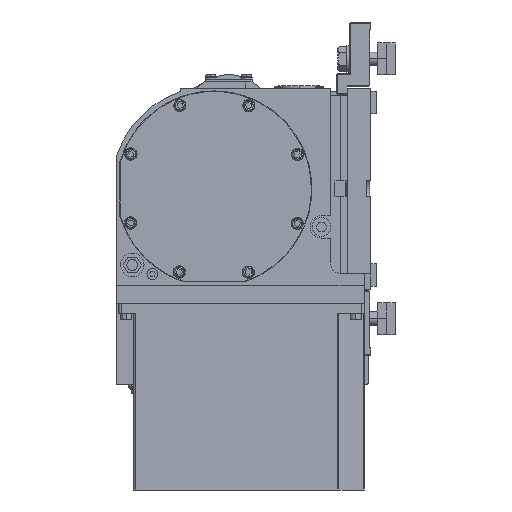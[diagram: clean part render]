
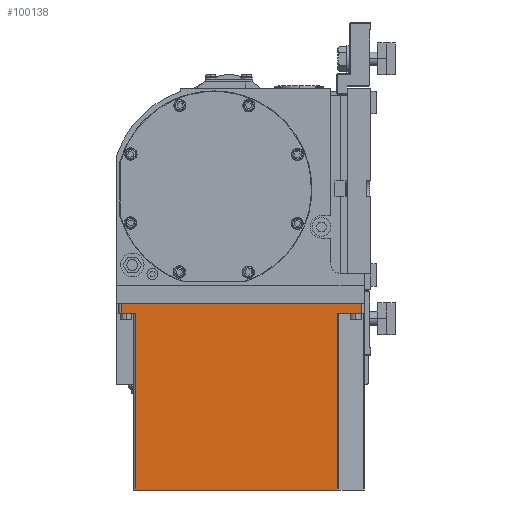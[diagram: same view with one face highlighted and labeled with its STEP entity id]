
A CAD part, left-side view. The second image highlights one B-rep face of the part: STEP entity #100138.
In plain terms, the highlighted planar face has unit normal (-1, 0, 0).
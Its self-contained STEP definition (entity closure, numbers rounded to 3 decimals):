
#446 = LINE ( 'NONE', #3447, #67395 ) ;
#2173 = VECTOR ( 'NONE', #89091, 1000. ) ;
#3447 = CARTESIAN_POINT ( 'NONE',  ( -122., 204., -167. ) ) ;
#9449 = CARTESIAN_POINT ( 'NONE',  ( -122., 2., -9. ) ) ;
#9562 = EDGE_CURVE ( 'NONE', #107541, #40245, #69084, .T. ) ;
#12858 = ORIENTED_EDGE ( 'NONE', *, *, #60396, .T. ) ;
#15121 = CARTESIAN_POINT ( 'NONE',  ( -122., 0., -9. ) ) ;
#19161 = CARTESIAN_POINT ( 'NONE',  ( -122., 204., -167. ) ) ;
#19182 = VERTEX_POINT ( 'NONE', #21708 ) ;
#21708 = CARTESIAN_POINT ( 'NONE',  ( -122., 2., -9. ) ) ;
#21808 = CARTESIAN_POINT ( 'NONE',  ( -122., 217., -9. ) ) ;
#22574 = EDGE_CURVE ( 'NONE', #98008, #19182, #71442, .T. ) ;
#22694 = VECTOR ( 'NONE', #44615, 1000. ) ;
#28133 = CARTESIAN_POINT ( 'NONE',  ( -122., 206., -167. ) ) ;
#30370 = ORIENTED_EDGE ( 'NONE', *, *, #38711, .T. ) ;
#30471 = CARTESIAN_POINT ( 'NONE',  ( -122., 0., -9. ) ) ;
#30924 = LINE ( 'NONE', #102678, #77389 ) ;
#32523 = CARTESIAN_POINT ( 'NONE',  ( -122., 0., -9. ) ) ;
#34671 = FACE_OUTER_BOUND ( 'NONE', #39842, .T. ) ;
#38711 = EDGE_CURVE ( 'NONE', #75381, #73160, #71972, .T. ) ;
#39842 = EDGE_LOOP ( 'NONE', ( #100612, #106405, #46216, #12858, #55872, #30370, #99481, #41302 ) ) ;
#40245 = VERTEX_POINT ( 'NONE', #19161 ) ;
#41302 = ORIENTED_EDGE ( 'NONE', *, *, #105590, .T. ) ;
#43007 = CARTESIAN_POINT ( 'NONE',  ( -122., 217., 0. ) ) ;
#44615 = DIRECTION ( 'NONE',  ( 0., 0., 1. ) ) ;
#44883 = CARTESIAN_POINT ( 'NONE',  ( -122., 23.828, -9. ) ) ;
#46216 = ORIENTED_EDGE ( 'NONE', *, *, #22574, .T. ) ;
#48049 = AXIS2_PLACEMENT_3D ( 'NONE', #15121, #102399, #50236 ) ;
#48247 = VECTOR ( 'NONE', #56839, 1000. ) ;
#50236 = DIRECTION ( 'NONE',  ( 0., 0., 1. ) ) ;
#53167 = EDGE_CURVE ( 'NONE', #73160, #85984, #58971, .T. ) ;
#55872 = ORIENTED_EDGE ( 'NONE', *, *, #108235, .F. ) ;
#56839 = DIRECTION ( 'NONE',  ( 0., -1., 0. ) ) ;
#58971 = LINE ( 'NONE', #32523, #79451 ) ;
#60396 = EDGE_CURVE ( 'NONE', #19182, #66523, #89533, .T. ) ;
#61021 = VECTOR ( 'NONE', #106797, 1000. ) ;
#63393 = EDGE_CURVE ( 'NONE', #107541, #98008, #86894, .T. ) ;
#64118 = DIRECTION ( 'NONE',  ( 0., 0., -1. ) ) ;
#66523 = VERTEX_POINT ( 'NONE', #79819 ) ;
#66698 = CARTESIAN_POINT ( 'NONE',  ( -122., 23.828, -167. ) ) ;
#67395 = VECTOR ( 'NONE', #64118, 1000. ) ;
#69084 = LINE ( 'NONE', #28133, #2173 ) ;
#69241 = VECTOR ( 'NONE', #100340, 1000. ) ;
#71442 = LINE ( 'NONE', #30471, #48247 ) ;
#71972 = LINE ( 'NONE', #21808, #69241 ) ;
#72045 = CARTESIAN_POINT ( 'NONE',  ( -122., 217., -9. ) ) ;
#73160 = VERTEX_POINT ( 'NONE', #72045 ) ;
#75381 = VERTEX_POINT ( 'NONE', #43007 ) ;
#76066 = DIRECTION ( 'NONE',  ( 0., -1., 0. ) ) ;
#76155 = PLANE ( 'NONE',  #48049 ) ;
#77389 = VECTOR ( 'NONE', #111476, 1000. ) ;
#79451 = VECTOR ( 'NONE', #76066, 1000. ) ;
#79819 = CARTESIAN_POINT ( 'NONE',  ( -122., 2., 0. ) ) ;
#85984 = VERTEX_POINT ( 'NONE', #102105 ) ;
#86894 = LINE ( 'NONE', #98061, #61021 ) ;
#89091 = DIRECTION ( 'NONE',  ( 0., 1., 0. ) ) ;
#89533 = LINE ( 'NONE', #9449, #22694 ) ;
#98008 = VERTEX_POINT ( 'NONE', #44883 ) ;
#98061 = CARTESIAN_POINT ( 'NONE',  ( -122., 23.828, -9. ) ) ;
#99481 = ORIENTED_EDGE ( 'NONE', *, *, #53167, .T. ) ;
#100138 = ADVANCED_FACE ( 'NONE', ( #34671 ), #76155, .T. ) ;
#100340 = DIRECTION ( 'NONE',  ( 0., 0., -1. ) ) ;
#100612 = ORIENTED_EDGE ( 'NONE', *, *, #9562, .F. ) ;
#102105 = CARTESIAN_POINT ( 'NONE',  ( -122., 204., -9. ) ) ;
#102399 = DIRECTION ( 'NONE',  ( -1., 0., 0. ) ) ;
#102678 = CARTESIAN_POINT ( 'NONE',  ( -122., 0., 0. ) ) ;
#105590 = EDGE_CURVE ( 'NONE', #85984, #40245, #446, .T. ) ;
#106405 = ORIENTED_EDGE ( 'NONE', *, *, #63393, .T. ) ;
#106797 = DIRECTION ( 'NONE',  ( 0., 0., 1. ) ) ;
#107541 = VERTEX_POINT ( 'NONE', #66698 ) ;
#108235 = EDGE_CURVE ( 'NONE', #75381, #66523, #30924, .T. ) ;
#111476 = DIRECTION ( 'NONE',  ( 0., -1., 0. ) ) ;
